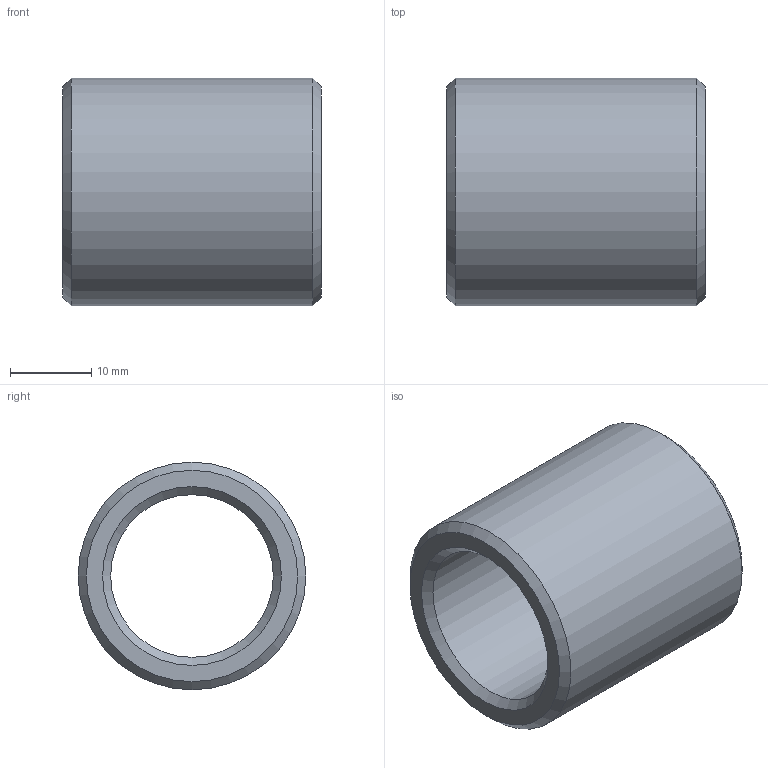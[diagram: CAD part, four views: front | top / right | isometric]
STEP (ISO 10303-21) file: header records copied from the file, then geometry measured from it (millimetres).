
FILE_DESCRIPTION(/* description */ (''),/* implementation_level */ '2;1');
FILE_NAME(/* name */ '',/* time_stamp */ '2026-01-09T11:12:42+09:00',/* author */ ('jhkim'),/* organization */ (''),/* preprocessor_version */ 'ST-DEVELOPER v20.1',/* originating_system */ 'Autodesk Inventor 2026',/* authorisation */ '');
FILE_SCHEMA (('AUTOMOTIVE_DESIGN { 1 0 10303 214 3 1 1 }'));
Length unit declared in the file: millimetre
Products named in the file (1): 칼라
Bounding box: 31.75 x 28 x 28 mm (x, y, z)
Volume: 9424.8 mm3; surface area: 5214.3 mm2
Topology: 1 solids, 1 shells, 8 faces, 16 edges, 10 vertices
Faces by surface type: cone 4, plane 2, cylinder 2
Full cylindrical faces by diameter (mm): 20 x1, 28 x1
Entity records: 261 total; most frequent: DIRECTION 44, CARTESIAN_POINT 35, ORIENTED_EDGE 32, AXIS2_PLACEMENT_3D 19, EDGE_CURVE 16, EDGE_LOOP 10, CIRCLE 10, VERTEX_POINT 10
